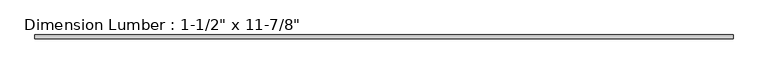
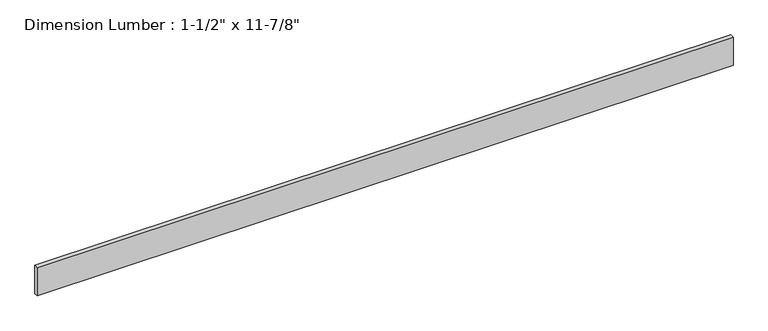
"""IFC4 building model written with IfcOpenShell, lengths in millimetres: beam geometry."""

from ifc_helpers import new_model, si_unit, frame, origin, place, context, project, spatial, polyline, outline, extrude, source, transform, mapped, element, save


def beam_ba458927(model_context):
    return source(origin(), model_context, "Body", "SweptSolid", [
        extrude(outline(polyline([(3514.725, 19.05), (3514.725, -19.05), (-3514.725, -19.05), (-3514.725, 19.05), (3514.725, 19.05)])), frame((0.0, 0.0, -150.8125), z_axis=(0.0, 0.0, 1.0), x_axis=(1.0, 0.0, 0.0)), (0.0, 0.0, 1.0), 301.625),
    ])


if __name__ == "__main__":
    model = new_model("IFC4")
    model_context = context("Model", 3, world=origin())
    ifc_project = project(units=[si_unit("LENGTHUNIT", "METRE", prefix="MILLI")], contexts=[model_context])
    site = spatial("IfcSite", under=ifc_project)
    building = spatial("IfcBuilding", under=site)
    placement = place(None, origin())
    beam_shape = beam_ba458927(model_context)
    element("IfcBeam", 1, ObjectType="Dimension Lumber : 1-1/2\" x 11-7/8\"", at=placement, inside=building, context=model_context, shape_type="MappedRepresentation", body=[
        mapped(beam_shape, transform((0.0, 0.0, 0.0), x_axis=(1.0, 0.0, 0.0), y_axis=(0.0, 1.0, 0.0), z_axis=(0.0, 0.0, 1.0))),
    ])
    save(model, "model.ifc")
